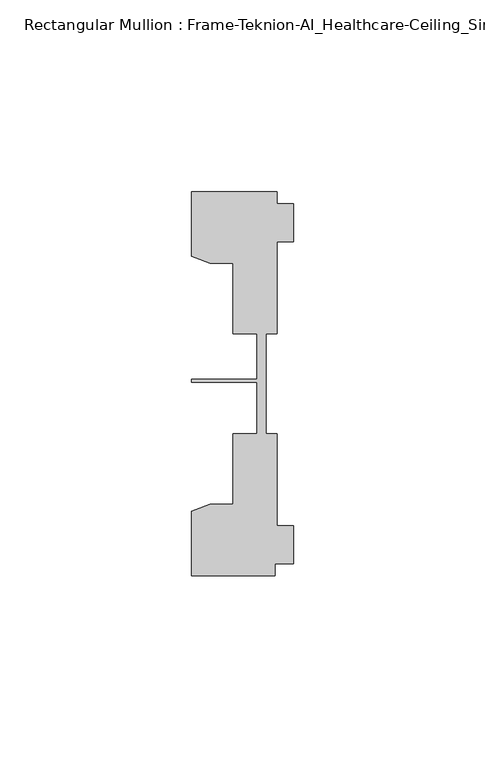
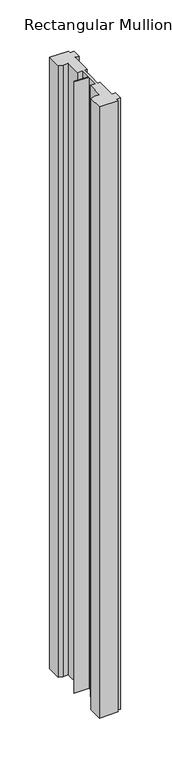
"""IFC4 building model written with IfcOpenShell, lengths in millimetres: member geometry, Rectangular Mullion : Frame-Teknion-AI_Healthcare-Ceiling_Single_Channel."""

from ifc_helpers import new_model, si_unit, frame, origin, place, context, project, spatial, polyline, outline, extrude, source, transform, mapped, element, save


def rectangular_mullion_frame_teknion_ai_healthcare_ceiling_2fba7cd8(model_context):
    return source(origin(), model_context, "Body", "SweptSolid", [
        extrude(outline(polyline([(-26.4921999, -34.0201677), (-21.6625199, -32.2880982), (-15.6737764, -32.2880982), (-15.6737764, -13.9110722), (-9.4507761, -13.9110722), (-9.4507761, -0.4036528), (-26.4921999, -0.4036528), (-26.4921999, 0.4036528), (-9.4507761, 0.4036528), (-9.4507761, 12.2509301), (-15.6737764, 12.2509301), (-15.6737764, 30.6279561), (-21.6625199, 30.6279561), (-26.4921999, 32.3600207), (-26.4921999, 49.1699293), (-4.2672007, 49.1699293), (-4.2672007, 46.1219322), (0.0, 46.1219322), (0.0, 36.1219249), (-4.2672007, 36.1219249), (-4.2672007, 12.2509301), (-7.1647766, 12.2509301), (-7.1647766, -0.0814804), (-7.1647766, -13.9110722), (-4.2672007, -13.9110722), (-4.2672007, -37.7820716), (0.0, -37.7820716), (0.0, -47.782071), (-4.7752002, -47.782071), (-4.7752002, -50.8315128), (-26.4921999, -50.8315128), (-26.4921999, -34.0201677)])), frame((0.0, 0.0, -749.3), z_axis=(0.0, 0.0, 1.0), x_axis=(1.0, 0.0, 0.0)), (0.0, 0.0, 1.0), 749.3),
    ])


if __name__ == "__main__":
    model = new_model("IFC4")
    model_context = context("Model", 3, world=origin())
    ifc_project = project(units=[si_unit("LENGTHUNIT", "METRE", prefix="MILLI")], contexts=[model_context])
    site = spatial("IfcSite", under=ifc_project)
    building = spatial("IfcBuilding", under=site)
    placement = place(None, origin())
    rectangular_mullion_frame_teknion_ai_healthcare_ceiling_shape = rectangular_mullion_frame_teknion_ai_healthcare_ceiling_2fba7cd8(model_context)
    element("IfcMember", 1, ObjectType="Rectangular Mullion : Frame-Teknion-AI_Healthcare-Ceiling_Single_Channel", at=placement, inside=building, context=model_context, shape_type="MappedRepresentation", body=[
        mapped(rectangular_mullion_frame_teknion_ai_healthcare_ceiling_shape, transform((0.0, 0.0, 0.0), x_axis=(1.0, 0.0, 0.0), y_axis=(0.0, 1.0, 0.0), z_axis=(0.0, 0.0, 1.0))),
    ])
    save(model, "model.ifc")
